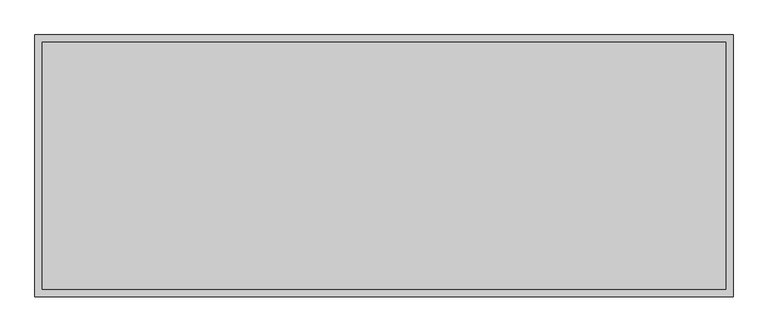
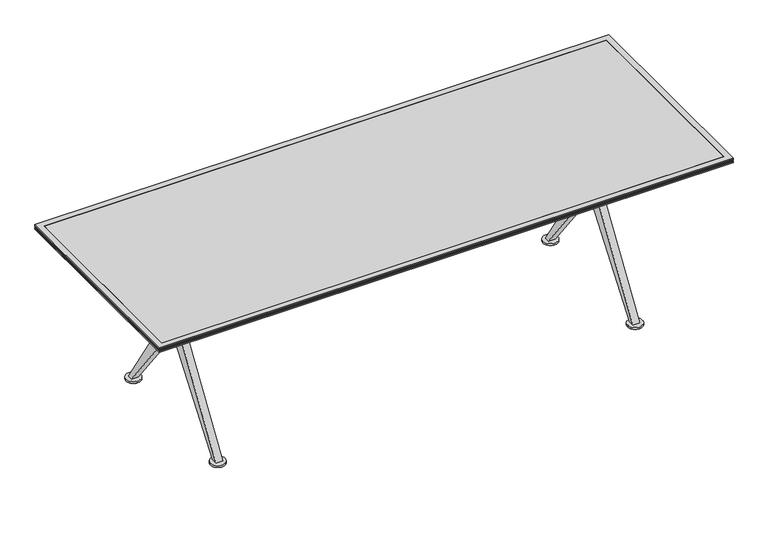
"""IFC4 building model written with IfcOpenShell, lengths in millimetres: furniture geometry, Coalesse_AM_Table_Conference_Ballet_Rectangular_XBase : Folding - 96L x 36W."""

from ifc_helpers import new_model, si_unit, point, frame, frame_2d, origin, origin_with_axes, place, context, project, spatial, polyline, circle_curve, trimmed, segment, composite_curve, outline, extrude, faceted_brep, source, transform, mapped, element, save
from ifc_brep_helpers import plane_surface, cylinder_surface, advanced_brep


def furniture_00ebde2c(model_context):
    return source(origin(), model_context, "Body", "SolidModel", [
        extrude(outline(composite_curve([segment(trimmed(circle_curve(frame_2d((-885.8365536, 310.3799254)), 25.4), [point((-911.2365536, 310.3799254))], [point((-860.4365536, 310.3799254))], False, "CARTESIAN"), True, "CONTINUOUS"), segment(trimmed(circle_curve(frame_2d((-885.8365536, 310.3799254)), 25.4), [point((-860.4365536, 310.3799254))], [point((-911.2365536, 310.3799254))], False, "CARTESIAN"), True, "CONTINUOUS")], self_intersect=False)), origin_with_axes(), (0.0, 0.0, 1.0), 4.5427804),
        extrude(outline(composite_curve([segment(trimmed(circle_curve(frame_2d((-886.4541541, -311.83186)), 25.4), [point((-911.8541541, -311.83186))], [point((-861.0541541, -311.83186))], False, "CARTESIAN"), True, "CONTINUOUS"), segment(trimmed(circle_curve(frame_2d((-886.4541541, -311.83186)), 25.4), [point((-861.0541541, -311.83186))], [point((-911.8541541, -311.83186))], False, "CARTESIAN"), True, "CONTINUOUS")], self_intersect=False)), origin_with_axes(), (0.0, 0.0, 1.0), 4.5427804),
        extrude(outline(composite_curve([segment(trimmed(circle_curve(frame_2d((885.8365536, 310.388)), 25.4), [point((860.4365536, 310.388))], [point((911.2365536, 310.388))], False, "CARTESIAN"), True, "CONTINUOUS"), segment(trimmed(circle_curve(frame_2d((885.8365536, 310.388)), 25.4), [point((911.2365536, 310.388))], [point((860.4365536, 310.388))], False, "CARTESIAN"), True, "CONTINUOUS")], self_intersect=False)), origin_with_axes(), (0.0, 0.0, 1.0), 4.5427804),
        extrude(outline(composite_curve([segment(trimmed(circle_curve(frame_2d((886.4541541, -311.83186)), 25.4), [point((861.0541541, -311.83186))], [point((911.8541541, -311.83186))], False, "CARTESIAN"), True, "CONTINUOUS"), segment(trimmed(circle_curve(frame_2d((886.4541541, -311.83186)), 25.4), [point((911.8541541, -311.83186))], [point((861.0541541, -311.83186))], False, "CARTESIAN"), True, "CONTINUOUS")], self_intersect=False)), origin_with_axes(), (0.0, 0.0, 1.0), 4.5427804),
        extrude(outline(composite_curve([segment(trimmed(circle_curve(frame_2d((-885.8365536, 310.3799254)), 31.7510292), [point((-917.5875828, 310.3799254))], [point((-854.0855244, 310.3799254))], False, "CARTESIAN"), True, "CONTINUOUS"), segment(trimmed(circle_curve(frame_2d((-885.8365536, 310.3799254)), 31.7510292), [point((-854.0855244, 310.3799254))], [point((-917.5875828, 310.3799254))], False, "CARTESIAN"), True, "CONTINUOUS")], self_intersect=False)), frame((0.0, 0.0, 4.5427804), z_axis=(0.0, 0.0, 1.0), x_axis=(1.0, 0.0, 0.0)), (0.0, 0.0, 1.0), 8.1572196),
        extrude(outline(composite_curve([segment(trimmed(circle_curve(frame_2d((-886.4541541, -311.83186)), 31.75), [point((-918.2041541, -311.83186))], [point((-854.7041541, -311.83186))], False, "CARTESIAN"), True, "CONTINUOUS"), segment(trimmed(circle_curve(frame_2d((-886.4541541, -311.83186)), 31.75), [point((-854.7041541, -311.83186))], [point((-918.2041541, -311.83186))], False, "CARTESIAN"), True, "CONTINUOUS")], self_intersect=False)), frame((0.0, 0.0, 4.5427804), z_axis=(0.0, 0.0, 1.0), x_axis=(1.0, 0.0, 0.0)), (0.0, 0.0, 1.0), 8.1572196),
        extrude(outline(composite_curve([segment(trimmed(circle_curve(frame_2d((885.8365536, 310.388)), 31.7510292), [point((854.0855244, 310.388))], [point((917.5875828, 310.388))], False, "CARTESIAN"), True, "CONTINUOUS"), segment(trimmed(circle_curve(frame_2d((885.8365536, 310.388)), 31.7510292), [point((917.5875828, 310.388))], [point((854.0855244, 310.388))], False, "CARTESIAN"), True, "CONTINUOUS")], self_intersect=False)), frame((0.0, 0.0, 4.5427804), z_axis=(0.0, 0.0, 1.0), x_axis=(1.0, 0.0, 0.0)), (0.0, 0.0, 1.0), 8.1572196),
        extrude(outline(composite_curve([segment(trimmed(circle_curve(frame_2d((886.4541541, -311.83186)), 31.75), [point((854.7041541, -311.83186))], [point((918.2041541, -311.83186))], False, "CARTESIAN"), True, "CONTINUOUS"), segment(trimmed(circle_curve(frame_2d((886.4541541, -311.83186)), 31.75), [point((918.2041541, -311.83186))], [point((854.7041541, -311.83186))], False, "CARTESIAN"), True, "CONTINUOUS")], self_intersect=False)), frame((0.0, 0.0, 4.5427804), z_axis=(0.0, 0.0, 1.0), x_axis=(1.0, 0.0, 0.0)), (0.0, 0.0, 1.0), 8.1572196),
        extrude(outline(polyline([(21.0343629, 381.0), (21.0343629, 482.7111245), (322.2625018, 12.7), (299.8750745, 12.7), (21.0343629, 381.0)])), frame((871.5375, 0.0, 0.0), z_axis=(1.0, 0.0, 0.0), x_axis=(0.0, 1.0, 0.0)), (0.0, 0.0, 1.0), 28.575),
        extrude(outline(polyline([(-21.0343629, 381.0), (-299.8750745, 12.7), (-322.2625018, 12.7), (-21.0343629, 482.7111245), (-21.0343629, 381.0)])), frame((871.5375, 0.0, 0.0), z_axis=(1.0, 0.0, 0.0), x_axis=(0.0, 1.0, 0.0)), (0.0, 0.0, 1.0), 28.575),
        extrude(outline(polyline([(21.0343629, 381.0), (21.0343629, 482.7111245), (322.2625018, 12.7), (299.8750745, 12.7), (21.0343629, 381.0)])), frame((-900.1125, 0.0, 0.0), z_axis=(1.0, 0.0, 0.0), x_axis=(0.0, 1.0, 0.0)), (0.0, 0.0, 1.0), 28.5877172),
        extrude(outline(polyline([(-21.0343629, 381.0), (-299.8750745, 12.7), (-322.2625018, 12.7), (-21.0343629, 482.7111245), (-21.0343629, 381.0)])), frame((-900.1125, 0.0, 0.0), z_axis=(1.0, 0.0, 0.0), x_axis=(0.0, 1.0, 0.0)), (0.0, 0.0, 1.0), 28.5877172),
        extrude(outline(polyline([(-21.0343629, 577.7388634), (-333.375, 698.5000242), (-305.990625, 698.5000242), (-21.0343629, 641.3500242), (-21.0343629, 577.7388634)])), frame((871.5375, 0.0, 0.0), z_axis=(1.0, 0.0, 0.0), x_axis=(0.0, 1.0, 0.0)), (0.0, 0.0, 1.0), 28.575),
        extrude(outline(polyline([(21.0343629, 577.7388634), (21.0343629, 641.3501773), (305.990625, 698.5000242), (333.375, 698.5000242), (21.0343629, 577.7388634)])), frame((871.5375, 0.0, 0.0), z_axis=(1.0, 0.0, 0.0), x_axis=(0.0, 1.0, 0.0)), (0.0, 0.0, 1.0), 28.575),
        extrude(outline(polyline([(-21.0343629, 577.7388634), (-333.375, 698.5000242), (-305.990625, 698.5000242), (-21.0343629, 641.3500242), (-21.0343629, 577.7388634)])), frame((-900.1125, 0.0, 0.0), z_axis=(1.0, 0.0, 0.0), x_axis=(0.0, 1.0, 0.0)), (0.0, 0.0, 1.0), 28.5877172),
        extrude(outline(polyline([(21.0343629, 577.7388634), (21.0343629, 641.3501773), (305.990625, 698.5000242), (333.375, 698.5000242), (21.0343629, 577.7388634)])), frame((-900.1125, 0.0, 0.0), z_axis=(1.0, 0.0, 0.0), x_axis=(0.0, 1.0, 0.0)), (0.0, 0.0, 1.0), 28.5877172),
        advanced_brep(
        [(864.4154775, 12.6999879, 492.1250121), (-864.4154775, 12.6999879, 492.1250121), (-864.4154775, 12.6999879, 568.3250121), (864.4154775, 12.6999879, 568.3250121), (-861.0125298, 0.0, 568.3250121), (-864.4154775, -12.6999879, 568.3250121), (864.4154775, -12.6999879, 568.3250121), (861.0125298, 0.0, 568.3250121), (-864.4154775, -12.6999879, 492.1250121), (864.4154775, -12.6999879, 492.1250121), (861.0125298, 0.0, 492.1250121), (-861.0125298, 0.0, 492.1250121), (-911.8125298, 0.0, 641.3500242), (-861.0125298, 0.0, 641.3500242), (861.0125298, 0.0, 641.3500242), (911.8125298, 0.0, 641.3500242), (-911.8125298, 0.0, 381.0), (-861.0125298, 0.0, 381.0), (861.0125298, 0.0, 381.0), (911.8125298, 0.0, 381.0)],
        [
            (0, 1),
            (1, 2),
            (2, 3),
            (3, 0),
            (2, 4, circle_curve(frame((-886.4125298, 0.0, 568.3250121), z_axis=(0.0, 0.0, -1.0), x_axis=(1.0, 0.0, 0.0)), 25.4)),
            (4, 5, circle_curve(frame((-886.4125298, 0.0, 568.3250121), z_axis=(0.0, 0.0, -1.0), x_axis=(1.0, 0.0, 0.0)), 25.4)),
            (5, 6),
            (6, 7, circle_curve(frame((886.4125298, 0.0, 568.3250121), z_axis=(0.0, 0.0, -1.0), x_axis=(1.0, 0.0, 0.0)), 25.4)),
            (7, 3, circle_curve(frame((886.4125298, 0.0, 568.3250121), z_axis=(0.0, 0.0, -1.0), x_axis=(1.0, 0.0, 0.0)), 25.4)),
            (5, 8),
            (8, 9),
            (9, 6),
            (0, 10, circle_curve(frame((886.4125298, 0.0, 492.1250121), z_axis=(0.0, 0.0, 1.0), x_axis=(1.0, 0.0, 0.0)), 25.4)),
            (10, 9, circle_curve(frame((886.4125298, 0.0, 492.1250121), z_axis=(0.0, 0.0, 1.0), x_axis=(1.0, 0.0, 0.0)), 25.4)),
            (8, 11, circle_curve(frame((-886.4125298, 0.0, 492.1250121), z_axis=(0.0, 0.0, 1.0), x_axis=(1.0, 0.0, 0.0)), 25.4)),
            (11, 1, circle_curve(frame((-886.4125298, 0.0, 492.1250121), z_axis=(0.0, 0.0, 1.0), x_axis=(1.0, 0.0, 0.0)), 25.4)),
            (12, 13, circle_curve(frame((-886.4125298, 0.0, 641.3500242), z_axis=(0.0, 0.0, 1.0), x_axis=(1.0, 0.0, 0.0)), 25.4)),
            (13, 12, circle_curve(frame((-886.4125298, 0.0, 641.3500242), z_axis=(0.0, 0.0, 1.0), x_axis=(1.0, 0.0, 0.0)), 25.4)),
            (14, 15, circle_curve(frame((886.4125298, 0.0, 641.3500242), z_axis=(0.0, 0.0, 1.0), x_axis=(1.0, 0.0, 0.0)), 25.4)),
            (15, 14, circle_curve(frame((886.4125298, 0.0, 641.3500242), z_axis=(0.0, 0.0, 1.0), x_axis=(1.0, 0.0, 0.0)), 25.4)),
            (16, 17, circle_curve(frame((-886.4125298, 0.0, 381.0), z_axis=(0.0, 0.0, -1.0), x_axis=(1.0, 0.0, 0.0)), 25.4)),
            (17, 16, circle_curve(frame((-886.4125298, 0.0, 381.0), z_axis=(0.0, 0.0, -1.0), x_axis=(1.0, 0.0, 0.0)), 25.4)),
            (18, 19, circle_curve(frame((886.4125298, 0.0, 381.0), z_axis=(0.0, 0.0, -1.0), x_axis=(1.0, 0.0, 0.0)), 25.4)),
            (19, 18, circle_curve(frame((886.4125298, 0.0, 381.0), z_axis=(0.0, 0.0, -1.0), x_axis=(1.0, 0.0, 0.0)), 25.4)),
            (12, 16),
            (17, 11),
            (4, 13),
            (14, 7),
            (10, 18),
            (19, 15),
        ],
        [
            plane_surface(frame((871.5375, 12.6999879, 492.1250121), z_axis=(0.0, 1.0, 0.0), x_axis=(-1.0, 0.0, 0.0))),
            plane_surface(frame((871.5375, 12.6999879, 568.3250121), z_axis=(0.0, 0.0, 1.0), x_axis=(-1.0, 0.0, 0.0))),
            plane_surface(frame((871.5375, -12.6999879, 568.3250121), z_axis=(0.0, -1.0, 0.0), x_axis=(-1.0, 0.0, 0.0))),
            plane_surface(frame((871.5375, -12.6999879, 492.1250121), z_axis=(0.0, 0.0, -1.0), x_axis=(-1.0, 0.0, 0.0))),
            plane_surface(frame((-861.0125298, 0.0, 641.3500242), z_axis=(0.0, 0.0, 1.0), x_axis=(0.0, 1.0, 0.0))),
            plane_surface(frame((-861.0125298, 0.0, 381.0), z_axis=(0.0, 0.0, -1.0), x_axis=(0.0, -1.0, 0.0))),
            cylinder_surface(frame((-886.4125298, 0.0, 381.0), z_axis=(0.0, 0.0, 1.0), x_axis=(1.0, 0.0, 0.0)), 25.4),
            cylinder_surface(frame((886.4125298, 0.0, 0.0), z_axis=(0.0, 0.0, 1.0), x_axis=(1.0, 0.0, 0.0)), 25.4),
        ],
        [
            (0, [[1, 2, 3, 4]]),
            (1, [[-3, 5, 6, 7, 8, 9]]),
            (2, [[-7, 10, 11, 12]]),
            (3, [[-1, 13, 14, -11, 15, 16]]),
            (4, [[17, 18]]),
            (4, [[19, 20]]),
            (5, [[21, 22]]),
            (5, [[23, 24]]),
            (6, [[-17, 25, -22, 26, -15, -10, -6, 27]]),
            (6, [[-18, -27, -5, -2, -16, -26, -21, -25]]),
            (7, [[-19, 28, -8, -12, -14, 29, -24, 30]]),
            (7, [[-20, -30, -23, -29, -13, -4, -9, -28]]),
        ],
    ),
        faceted_brep([(-1219.2003633, 457.2, 704.85), (-1193.8003876, 431.8000242, 698.5000242), (-1193.8003876, -431.7999516, 698.5000242), (-1219.2003633, -457.1999273, 704.85), (-1219.2003633, 457.2, 708.0250242), (-1219.2003633, -457.1999273, 708.0250242), (-1216.0253755, 454.0250121, 709.6125), (-1216.0253755, -454.0249394, 709.6125), (-1219.2003633, 457.2, 711.1999758), (-1219.2003633, -457.1999273, 711.1999758), (-1216.0253755, 454.0250121, 712.7875242), (-1216.0253755, -454.0249394, 712.7875242), (-1219.2003633, 457.2, 714.375), (-1219.2003633, -457.1999273, 714.375), (-1216.0253755, 454.0250121, 715.9624758), (-1216.0253755, -454.0249394, 715.9624758), (-1219.2003633, 457.2, 717.5500242), (-1219.2003633, -457.1999273, 717.5500242), (-1216.0253755, 454.0250121, 719.1375), (-1216.0253755, -454.0249394, 719.1375), (-1219.2003633, 457.2, 720.7249758), (-1219.2003633, -457.1999273, 720.7249758), (-1219.2003633, 457.2, 723.9), (-1219.2003633, -457.1999273, 723.9), (-1193.8003876, 431.8000242, 723.9), (-1193.8003876, -431.7999516, 723.9), (1193.8, -431.7999516, 698.5000242), (1219.1999758, -457.1999273, 704.85), (1219.1999758, -457.1999273, 708.0250242), (1216.0249879, -454.0249394, 709.6125), (1219.1999758, -457.1999273, 711.1999758), (1216.0249879, -454.0249394, 712.7875242), (1219.1999758, -457.1999273, 714.375), (1216.0249879, -454.0249394, 715.9624758), (1219.1999758, -457.1999273, 717.5500242), (1216.0249879, -454.0249394, 719.1375), (1219.1999758, -457.1999273, 720.7249758), (1219.1999758, -457.1999273, 723.9), (1193.8, -431.7999516, 723.9), (1193.8, 431.8000242, 698.5000242), (1219.1999758, 457.2, 704.85), (1219.1999758, 457.2, 708.0250242), (1216.0249879, 454.0250121, 709.6125), (1219.1999758, 457.2, 711.1999758), (1216.0249879, 454.0250121, 712.7875242), (1219.1999758, 457.2, 714.375), (1216.0249879, 454.0250121, 715.9624758), (1219.1999758, 457.2, 717.5500242), (1216.0249879, 454.0250121, 719.1375), (1219.1999758, 457.2, 720.7249758), (1219.1999758, 457.2, 723.9), (1193.8, 431.8000242, 723.9)], [[[0, 1, 2, 3]], [[4, 0, 3, 5]], [[6, 4, 5, 7]], [[8, 6, 7, 9]], [[10, 8, 9, 11]], [[12, 10, 11, 13]], [[14, 12, 13, 15]], [[16, 14, 15, 17]], [[18, 16, 17, 19]], [[20, 18, 19, 21]], [[22, 20, 21, 23]], [[1, 24, 25, 2]], [[3, 2, 26, 27]], [[5, 3, 27, 28]], [[7, 5, 28, 29]], [[9, 7, 29, 30]], [[11, 9, 30, 31]], [[13, 11, 31, 32]], [[15, 13, 32, 33]], [[17, 15, 33, 34]], [[19, 17, 34, 35]], [[21, 19, 35, 36]], [[23, 21, 36, 37]], [[2, 25, 38, 26]], [[27, 26, 39, 40]], [[28, 27, 40, 41]], [[29, 28, 41, 42]], [[30, 29, 42, 43]], [[31, 30, 43, 44]], [[32, 31, 44, 45]], [[33, 32, 45, 46]], [[34, 33, 46, 47]], [[35, 34, 47, 48]], [[36, 35, 48, 49]], [[37, 36, 49, 50]], [[26, 38, 51, 39]], [[40, 39, 1, 0]], [[41, 40, 0, 4]], [[42, 41, 4, 6]], [[43, 42, 6, 8]], [[44, 43, 8, 10]], [[45, 44, 10, 12]], [[46, 45, 12, 14]], [[47, 46, 14, 16]], [[48, 47, 16, 18]], [[49, 48, 18, 20]], [[50, 49, 20, 22]], [[23, 37, 50, 22], [24, 51, 38, 25]], [[39, 51, 24, 1]]]),
        extrude(outline(polyline([(1193.8, 431.8000242), (1193.8, -431.7999516), (-1193.8003876, -431.7999516), (-1193.8003876, 431.8000242), (1193.8, 431.8000242)])), frame((0.0, 0.0, 704.85), z_axis=(0.0, 0.0, 1.0), x_axis=(1.0, 0.0, 0.0)), (0.0, 0.0, 1.0), 19.05),
    ])


if __name__ == "__main__":
    model = new_model("IFC4")
    model_context = context("Model", 3, world=origin())
    ifc_project = project(units=[si_unit("LENGTHUNIT", "METRE", prefix="MILLI")], contexts=[model_context])
    site = spatial("IfcSite", under=ifc_project)
    building = spatial("IfcBuilding", under=site)
    placement = place(None, origin())
    furniture_shape = furniture_00ebde2c(model_context)
    element("IfcFurniture", 1, ObjectType="Coalesse_AM_Table_Conference_Ballet_Rectangular_XBase : Folding - 96L x 36W", at=placement, inside=building, context=model_context, shape_type="MappedRepresentation", body=[
        mapped(furniture_shape, transform((0.0, 0.0, 0.0), x_axis=(1.0, 0.0, 0.0), y_axis=(0.0, 1.0, 0.0), z_axis=(0.0, 0.0, 1.0))),
    ])
    save(model, "model.ifc")
